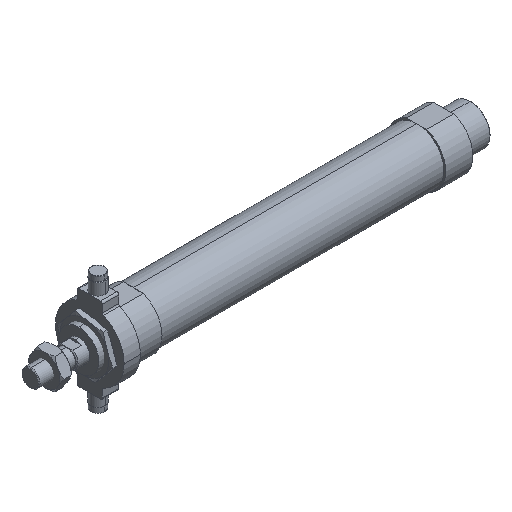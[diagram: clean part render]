
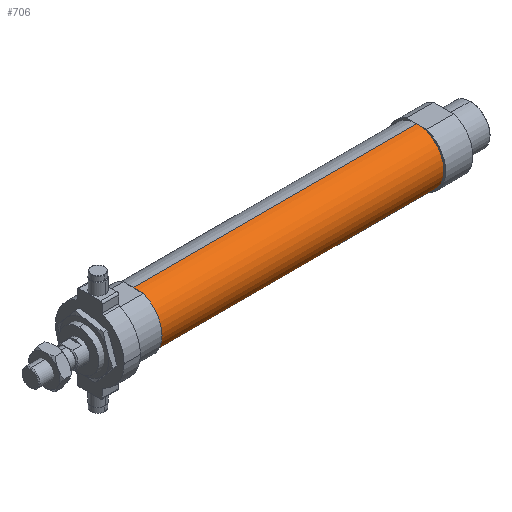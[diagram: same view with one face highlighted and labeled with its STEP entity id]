
A CAD part, isometric view. The second image highlights one B-rep face of the part: STEP entity #706.
In plain terms, the highlighted cylindrical face has radius 15 mm (diameter 30 mm), a partial arc.
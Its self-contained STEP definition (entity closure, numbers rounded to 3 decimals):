
#277 = EDGE_CURVE ( 'NONE', #4524, #2440, #1311, .T. ) ;
#280 = ORIENTED_EDGE ( 'NONE', *, *, #3268, .F. ) ;
#339 = DIRECTION ( 'NONE',  ( -1., 0., 0. ) ) ;
#404 = CARTESIAN_POINT ( 'NONE',  ( -6.469, 0., 15. ) ) ;
#592 = DIRECTION ( 'NONE',  ( 0., 0., 1. ) ) ;
#694 = VECTOR ( 'NONE', #4558, 1000. ) ;
#706 = ADVANCED_FACE ( 'NONE', ( #2347 ), #3506, .T. ) ;
#734 = DIRECTION ( 'NONE',  ( -1., 0., 0. ) ) ;
#814 = CIRCLE ( 'NONE', #1290, 15. ) ;
#889 = ORIENTED_EDGE ( 'NONE', *, *, #2813, .T. ) ;
#992 = AXIS2_PLACEMENT_3D ( 'NONE', #4520, #339, #2961 ) ;
#1022 = DIRECTION ( 'NONE',  ( -1., 0., 0. ) ) ;
#1084 = CARTESIAN_POINT ( 'NONE',  ( -6.469, 0., -15. ) ) ;
#1290 = AXIS2_PLACEMENT_3D ( 'NONE', #3784, #734, #592 ) ;
#1311 = LINE ( 'NONE', #1084, #694 ) ;
#1319 = CARTESIAN_POINT ( 'NONE',  ( 214., 0., -15. ) ) ;
#1592 = CARTESIAN_POINT ( 'NONE',  ( 57., 0., -15. ) ) ;
#1965 = AXIS2_PLACEMENT_3D ( 'NONE', #3077, #1022, #2629 ) ;
#2268 = ORIENTED_EDGE ( 'NONE', *, *, #3808, .T. ) ;
#2338 = CARTESIAN_POINT ( 'NONE',  ( 214., 0., 15. ) ) ;
#2347 = FACE_OUTER_BOUND ( 'NONE', #4464, .T. ) ;
#2358 = DIRECTION ( 'NONE',  ( -1., 0., 0. ) ) ;
#2431 = LINE ( 'NONE', #404, #3253 ) ;
#2440 = VERTEX_POINT ( 'NONE', #1592 ) ;
#2629 = DIRECTION ( 'NONE',  ( 0., 0., 1. ) ) ;
#2654 = CIRCLE ( 'NONE', #1965, 15. ) ;
#2813 = EDGE_CURVE ( 'NONE', #4524, #4379, #814, .T. ) ;
#2961 = DIRECTION ( 'NONE',  ( 0., 0., 1. ) ) ;
#3077 = CARTESIAN_POINT ( 'NONE',  ( 57., 0., 0. ) ) ;
#3187 = VERTEX_POINT ( 'NONE', #3622 ) ;
#3253 = VECTOR ( 'NONE', #2358, 1000. ) ;
#3268 = EDGE_CURVE ( 'NONE', #2440, #3187, #2654, .T. ) ;
#3506 = CYLINDRICAL_SURFACE ( 'NONE', #992, 15. ) ;
#3622 = CARTESIAN_POINT ( 'NONE',  ( 57., 0., 15. ) ) ;
#3784 = CARTESIAN_POINT ( 'NONE',  ( 214., 0., 0. ) ) ;
#3808 = EDGE_CURVE ( 'NONE', #4379, #3187, #2431, .T. ) ;
#4372 = ORIENTED_EDGE ( 'NONE', *, *, #277, .F. ) ;
#4379 = VERTEX_POINT ( 'NONE', #2338 ) ;
#4464 = EDGE_LOOP ( 'NONE', ( #4372, #889, #2268, #280 ) ) ;
#4520 = CARTESIAN_POINT ( 'NONE',  ( -6.469, 0., 0. ) ) ;
#4524 = VERTEX_POINT ( 'NONE', #1319 ) ;
#4558 = DIRECTION ( 'NONE',  ( -1., 0., 0. ) ) ;
